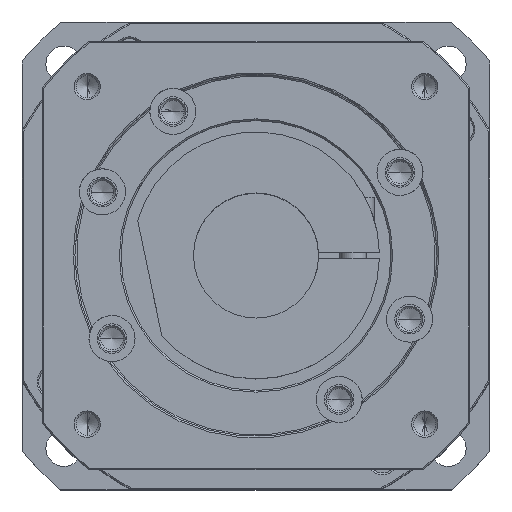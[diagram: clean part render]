
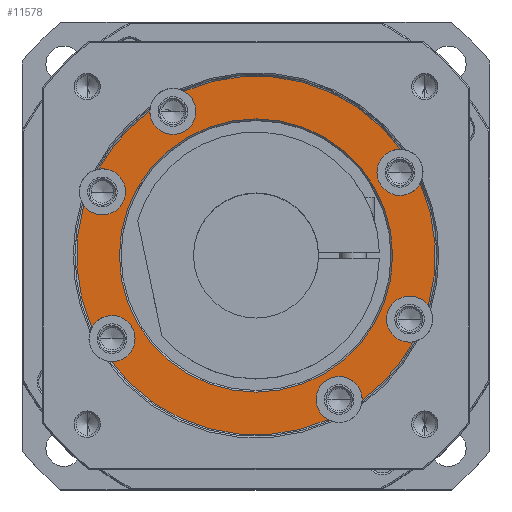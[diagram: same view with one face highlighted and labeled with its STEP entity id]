
A CAD part, top view. The second image highlights one B-rep face of the part: STEP entity #11578.
In plain terms, the highlighted planar face has unit normal (0, 0, 1).
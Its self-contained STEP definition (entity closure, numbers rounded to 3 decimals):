
#9216=CARTESIAN_POINT('',(0.,0.,18.5));
#9217=DIRECTION('',(0.,0.,-1.));
#9218=DIRECTION('',(1.,0.,0.));
#9219=AXIS2_PLACEMENT_3D('',#9216,#9217,#9218);
#9234=CARTESIAN_POINT('',(19.326,46.656,18.5));
#9235=DIRECTION('',(0.,0.,1.));
#9236=DIRECTION('',(-1.,0.,0.));
#9237=AXIS2_PLACEMENT_3D('',#9234,#9235,#9236);
#9239=CARTESIAN_POINT('',(19.326,46.656,18.5));
#9240=DIRECTION('',(0.,0.,1.));
#9241=DIRECTION('',(1.,0.,0.));
#9242=AXIS2_PLACEMENT_3D('',#9239,#9240,#9241);
#9244=CARTESIAN_POINT('',(43.734,25.25,18.5));
#9245=DIRECTION('',(0.,0.,1.));
#9246=DIRECTION('',(0.029,1.,0.));
#9247=AXIS2_PLACEMENT_3D('',#9244,#9245,#9246);
#9249=CARTESIAN_POINT('',(43.734,25.25,18.5));
#9250=DIRECTION('',(0.,0.,1.));
#9251=DIRECTION('',(-1.,0.,0.));
#9252=AXIS2_PLACEMENT_3D('',#9249,#9250,#9251);
#9254=CARTESIAN_POINT('',(0.,0.,18.5));
#9255=DIRECTION('',(0.,0.,1.));
#9256=DIRECTION('',(0.592,-0.806,0.));
#9257=AXIS2_PLACEMENT_3D('',#9254,#9255,#9256);
#9259=CARTESIAN_POINT('',(25.25,-43.734,18.5));
#9260=DIRECTION('',(0.,0.,1.));
#9261=DIRECTION('',(1.,-0.029,0.));
#9262=AXIS2_PLACEMENT_3D('',#9259,#9260,#9261);
#9264=CARTESIAN_POINT('',(25.25,-43.734,18.5));
#9265=DIRECTION('',(0.,0.,1.));
#9266=DIRECTION('',(1.,0.,0.));
#9267=AXIS2_PLACEMENT_3D('',#9264,#9265,#9266);
#9269=CARTESIAN_POINT('',(25.25,-43.734,18.5));
#9270=DIRECTION('',(0.,0.,1.));
#9271=DIRECTION('',(-1.,0.,0.));
#9272=AXIS2_PLACEMENT_3D('',#9269,#9270,#9271);
#9274=CARTESIAN_POINT('',(-19.326,-46.656,18.5));
#9275=DIRECTION('',(0.,0.,1.));
#9276=DIRECTION('',(0.586,-0.811,0.));
#9277=AXIS2_PLACEMENT_3D('',#9274,#9275,#9276);
#9279=CARTESIAN_POINT('',(-19.326,-46.656,18.5));
#9280=DIRECTION('',(0.,0.,1.));
#9281=DIRECTION('',(1.,0.,0.));
#9282=AXIS2_PLACEMENT_3D('',#9279,#9280,#9281);
#9284=CARTESIAN_POINT('',(-19.326,-46.656,18.5));
#9285=DIRECTION('',(0.,0.,1.));
#9286=DIRECTION('',(-1.,0.,0.));
#9287=AXIS2_PLACEMENT_3D('',#9284,#9285,#9286);
#9289=CARTESIAN_POINT('',(-43.734,-25.25,18.5));
#9290=DIRECTION('',(0.,0.,1.));
#9291=DIRECTION('',(-0.029,-1.,0.));
#9292=AXIS2_PLACEMENT_3D('',#9289,#9290,#9291);
#9294=CARTESIAN_POINT('',(-43.734,-25.25,18.5));
#9295=DIRECTION('',(0.,0.,1.));
#9296=DIRECTION('',(1.,0.,0.));
#9297=AXIS2_PLACEMENT_3D('',#9294,#9295,#9296);
#9299=CARTESIAN_POINT('',(0.,0.,18.5));
#9300=DIRECTION('',(0.,0.,-1.));
#9301=DIRECTION('',(-0.916,-0.402,0.));
#9302=AXIS2_PLACEMENT_3D('',#9299,#9300,#9301);
#9304=CARTESIAN_POINT('',(-25.25,43.734,18.5));
#9305=DIRECTION('',(0.,0.,1.));
#9306=DIRECTION('',(-1.,0.029,0.));
#9307=AXIS2_PLACEMENT_3D('',#9304,#9305,#9306);
#9309=CARTESIAN_POINT('',(-25.25,43.734,18.5));
#9310=DIRECTION('',(0.,0.,1.));
#9311=DIRECTION('',(-1.,0.,0.));
#9312=AXIS2_PLACEMENT_3D('',#9309,#9310,#9311);
#9314=CARTESIAN_POINT('',(-25.25,43.734,18.5));
#9315=DIRECTION('',(0.,0.,1.));
#9316=DIRECTION('',(1.,0.,0.));
#9317=AXIS2_PLACEMENT_3D('',#9314,#9315,#9316);
#9319=CARTESIAN_POINT('',(19.326,46.656,18.5));
#9320=DIRECTION('',(0.,0.,1.));
#9321=DIRECTION('',(-0.586,0.811,0.));
#9322=AXIS2_PLACEMENT_3D('',#9319,#9320,#9321);
#9324=CARTESIAN_POINT('',(0.,0.,18.5));
#9325=DIRECTION('',(0.,0.,-1.));
#9326=DIRECTION('',(-1.,0.,0.));
#9327=AXIS2_PLACEMENT_3D('',#9324,#9325,#9326);
#9422=CARTESIAN_POINT('',(0.,0.,18.5));
#9423=DIRECTION('',(0.,0.,1.));
#9424=DIRECTION('',(-0.806,-0.592,0.));
#9425=AXIS2_PLACEMENT_3D('',#9422,#9423,#9424);
#9436=CARTESIAN_POINT('',(0.,0.,18.5));
#9437=DIRECTION('',(0.,0.,1.));
#9438=DIRECTION('',(-0.279,-0.96,0.));
#9439=AXIS2_PLACEMENT_3D('',#9436,#9437,#9438);
#9460=CARTESIAN_POINT('',(0.,0.,18.5));
#9461=DIRECTION('',(0.,0.,1.));
#9462=DIRECTION('',(0.806,0.592,0.));
#9463=AXIS2_PLACEMENT_3D('',#9460,#9461,#9462);
#9479=CARTESIAN_POINT('',(0.,0.,18.5));
#9480=DIRECTION('',(0.,0.,1.));
#9481=DIRECTION('',(0.279,0.96,0.));
#9482=AXIS2_PLACEMENT_3D('',#9479,#9480,#9481);
#10179=CARTESIAN_POINT('',(36.734,25.25,18.5));
#10180=CARTESIAN_POINT('',(49.895,21.926,18.5));
#10181=VERTEX_POINT('',#10179);
#10182=VERTEX_POINT('',#10180);
#10183=CARTESIAN_POINT('',(43.936,32.247,18.5));
#10184=VERTEX_POINT('',#10183);
#10185=CARTESIAN_POINT('',(-32.25,43.734,18.5));
#10186=CARTESIAN_POINT('',(-18.25,43.734,18.5));
#10187=VERTEX_POINT('',#10185);
#10188=VERTEX_POINT('',#10186);
#10189=CARTESIAN_POINT('',(-21.926,49.895,18.5));
#10190=VERTEX_POINT('',#10189);
#10191=CARTESIAN_POINT('',(-43.936,-32.247,18.5));
#10192=CARTESIAN_POINT('',(-36.734,-25.25,18.5));
#10193=VERTEX_POINT('',#10191);
#10194=VERTEX_POINT('',#10192);
#10195=CARTESIAN_POINT('',(-49.895,-21.926,18.5));
#10196=VERTEX_POINT('',#10195);
#10197=CARTESIAN_POINT('',(18.25,-43.734,18.5));
#10198=CARTESIAN_POINT('',(21.926,-49.895,18.5));
#10199=VERTEX_POINT('',#10197);
#10200=VERTEX_POINT('',#10198);
#10201=CARTESIAN_POINT('',(32.25,-43.734,18.5));
#10202=VERTEX_POINT('',#10201);
#10235=CARTESIAN_POINT('',(-32.247,43.936,18.5));
#10236=VERTEX_POINT('',#10235);
#10237=CARTESIAN_POINT('',(32.247,-43.936,18.5));
#10238=VERTEX_POINT('',#10237);
#10333=CARTESIAN_POINT('',(-26.326,-46.656,18.5));
#10334=CARTESIAN_POINT('',(-26.236,-47.769,18.5));
#10335=VERTEX_POINT('',#10333);
#10336=VERTEX_POINT('',#10334);
#10337=CARTESIAN_POINT('',(-12.326,-46.656,18.5));
#10338=VERTEX_POINT('',#10337);
#10349=CARTESIAN_POINT('',(12.326,46.656,18.5));
#10350=CARTESIAN_POINT('',(26.326,46.656,18.5));
#10351=VERTEX_POINT('',#10349);
#10352=VERTEX_POINT('',#10350);
#10353=CARTESIAN_POINT('',(26.236,47.769,18.5));
#10354=VERTEX_POINT('',#10353);
#10421=CARTESIAN_POINT('',(-15.226,-52.33,18.5));
#10422=VERTEX_POINT('',#10421);
#10423=CARTESIAN_POINT('',(15.226,52.33,18.5));
#10424=VERTEX_POINT('',#10423);
#10425=CARTESIAN_POINT('',(-41.5,0.,18.5));
#10426=CARTESIAN_POINT('',(41.5,0.,18.5));
#10427=VERTEX_POINT('',#10425);
#10428=VERTEX_POINT('',#10426);
#11524=CARTESIAN_POINT('',(0.,0.,18.5));
#11525=DIRECTION('',(0.,0.,-1.));
#11526=DIRECTION('',(0.,-1.,0.));
#11527=AXIS2_PLACEMENT_3D('',#11524,#11525,#11526);
#11528=PLANE('',#11527);
#11530=ORIENTED_EDGE('',*,*,#11529,.T.);
#11532=ORIENTED_EDGE('',*,*,#11531,.T.);
#11534=ORIENTED_EDGE('',*,*,#11533,.F.);
#11536=ORIENTED_EDGE('',*,*,#11535,.T.);
#11538=ORIENTED_EDGE('',*,*,#11537,.T.);
#11540=ORIENTED_EDGE('',*,*,#11539,.F.);
#11541=ORIENTED_EDGE('',*,*,#10743,.T.);
#11543=ORIENTED_EDGE('',*,*,#11542,.T.);
#11544=ORIENTED_EDGE('',*,*,#10736,.T.);
#11546=ORIENTED_EDGE('',*,*,#11545,.F.);
#11548=ORIENTED_EDGE('',*,*,#11547,.T.);
#11550=ORIENTED_EDGE('',*,*,#11549,.T.);
#11552=ORIENTED_EDGE('',*,*,#11551,.T.);
#11554=ORIENTED_EDGE('',*,*,#11553,.F.);
#11556=ORIENTED_EDGE('',*,*,#11555,.T.);
#11558=ORIENTED_EDGE('',*,*,#11557,.T.);
#11560=ORIENTED_EDGE('',*,*,#11559,.T.);
#11562=ORIENTED_EDGE('',*,*,#11561,.T.);
#11564=ORIENTED_EDGE('',*,*,#11563,.T.);
#11566=ORIENTED_EDGE('',*,*,#11565,.T.);
#11568=ORIENTED_EDGE('',*,*,#11567,.F.);
#11570=ORIENTED_EDGE('',*,*,#11569,.T.);
#11571=EDGE_LOOP('',(#11530,#11532,#11534,#11536,#11538,#11540,#11541,#11543,
#11544,#11546,#11548,#11550,#11552,#11554,#11556,#11558,#11560,#11562,#11564,
#11566,#11568,#11570));
#11572=FACE_OUTER_BOUND('',#11571,.F.);
#11573=ORIENTED_EDGE('',*,*,#11514,.F.);
#11575=ORIENTED_EDGE('',*,*,#11574,.F.);
#11576=EDGE_LOOP('',(#11573,#11575));
#11577=FACE_BOUND('',#11576,.F.);
#11578=ADVANCED_FACE('',(#11572,#11577),#11528,.F.);
#9220=CIRCLE('',#9219,41.5);
#9238=CIRCLE('',#9237,7.);
#9243=CIRCLE('',#9242,7.);
#9248=CIRCLE('',#9247,7.);
#9253=CIRCLE('',#9252,7.);
#9258=CIRCLE('',#9257,54.5);
#9263=CIRCLE('',#9262,7.);
#9268=CIRCLE('',#9267,7.);
#9273=CIRCLE('',#9272,7.);
#9278=CIRCLE('',#9277,7.);
#9283=CIRCLE('',#9282,7.);
#9288=CIRCLE('',#9287,7.);
#9293=CIRCLE('',#9292,7.);
#9298=CIRCLE('',#9297,7.);
#9303=CIRCLE('',#9302,54.5);
#9308=CIRCLE('',#9307,7.);
#9313=CIRCLE('',#9312,7.);
#9318=CIRCLE('',#9317,7.);
#9323=CIRCLE('',#9322,7.);
#9328=CIRCLE('',#9327,41.5);
#9426=CIRCLE('',#9425,54.5);
#9440=CIRCLE('',#9439,54.5);
#9464=CIRCLE('',#9463,54.5);
#9483=CIRCLE('',#9482,54.5);
#10736=EDGE_CURVE('',#10199,#10200,#9273,.T.);
#10743=EDGE_CURVE('',#10238,#10202,#9263,.T.);
#11514=EDGE_CURVE('',#10428,#10427,#9220,.T.);
#11529=EDGE_CURVE('',#10351,#10352,#9238,.T.);
#11531=EDGE_CURVE('',#10352,#10354,#9243,.T.);
#11533=EDGE_CURVE('',#10184,#10354,#9464,.T.);
#11535=EDGE_CURVE('',#10184,#10181,#9248,.T.);
#11537=EDGE_CURVE('',#10181,#10182,#9253,.T.);
#11539=EDGE_CURVE('',#10238,#10182,#9258,.T.);
#11542=EDGE_CURVE('',#10202,#10199,#9268,.T.);
#11545=EDGE_CURVE('',#10422,#10200,#9440,.T.);
#11547=EDGE_CURVE('',#10422,#10338,#9278,.T.);
#11549=EDGE_CURVE('',#10338,#10335,#9283,.T.);
#11551=EDGE_CURVE('',#10335,#10336,#9288,.T.);
#11553=EDGE_CURVE('',#10193,#10336,#9426,.T.);
#11555=EDGE_CURVE('',#10193,#10194,#9293,.T.);
#11557=EDGE_CURVE('',#10194,#10196,#9298,.T.);
#11559=EDGE_CURVE('',#10196,#10236,#9303,.T.);
#11561=EDGE_CURVE('',#10236,#10187,#9308,.T.);
#11563=EDGE_CURVE('',#10187,#10188,#9313,.T.);
#11565=EDGE_CURVE('',#10188,#10190,#9318,.T.);
#11567=EDGE_CURVE('',#10424,#10190,#9483,.T.);
#11569=EDGE_CURVE('',#10424,#10351,#9323,.T.);
#11574=EDGE_CURVE('',#10427,#10428,#9328,.T.);
